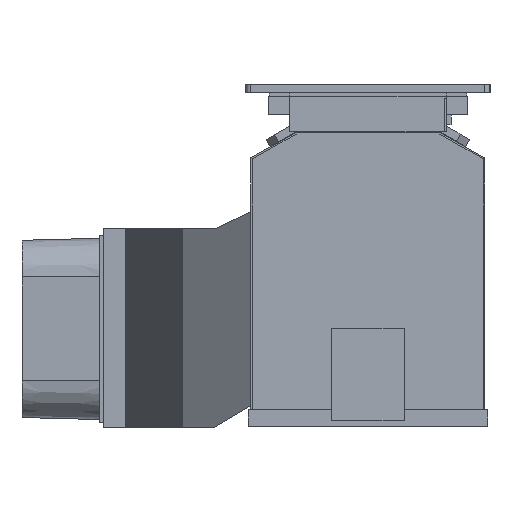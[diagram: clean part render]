
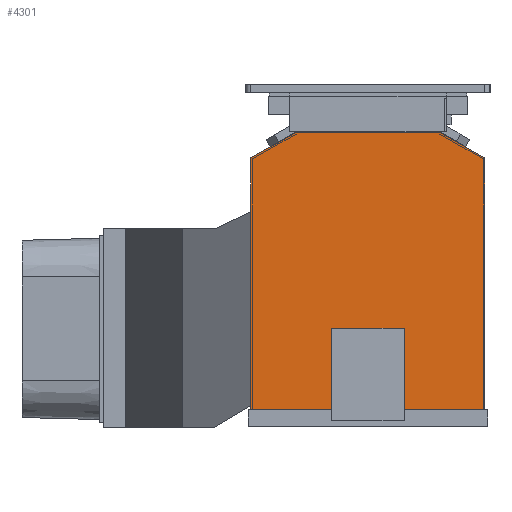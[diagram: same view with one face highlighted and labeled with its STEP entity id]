
A CAD part, left-side view. The second image highlights one B-rep face of the part: STEP entity #4301.
In plain terms, the highlighted planar face has unit normal (-1, 0, 0).
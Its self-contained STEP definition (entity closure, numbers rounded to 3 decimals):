
#4258=AXIS2_PLACEMENT_3D('Plane Axis2P3D',#4255,#4256,#4257) ;
#4136=CARTESIAN_POINT('Line Origine',(-493.,57.5,-94.113)) ;
#4140=CARTESIAN_POINT('Vertex',(-493.,57.5,-156.)) ;
#4142=CARTESIAN_POINT('Vertex',(-493.,57.5,-32.225)) ;
#4255=CARTESIAN_POINT('Axis2P3D Location',(-493.,0.,-19.6)) ;
#4260=CARTESIAN_POINT('Line Origine',(-493.,0.,-156.)) ;
#4264=CARTESIAN_POINT('Vertex',(-493.,-57.5,-156.)) ;
#4267=CARTESIAN_POINT('Line Origine',(-493.,-57.5,-94.113)) ;
#4271=CARTESIAN_POINT('Vertex',(-493.,-57.5,-32.225)) ;
#4274=CARTESIAN_POINT('Line Origine',(-493.,-46.343,-25.913)) ;
#4278=CARTESIAN_POINT('Vertex',(-493.,-35.185,-19.6)) ;
#4281=CARTESIAN_POINT('Line Origine',(-493.,0.,-19.6)) ;
#4285=CARTESIAN_POINT('Vertex',(-493.,35.185,-19.6)) ;
#4288=CARTESIAN_POINT('Line Origine',(-493.,46.343,-25.913)) ;
#4137=DIRECTION('Vector Direction',(0.,0.,-1.)) ;
#4256=DIRECTION('Axis2P3D Direction',(1.,-0.,0.)) ;
#4257=DIRECTION('Axis2P3D XDirection',(0.,1.,0.)) ;
#4261=DIRECTION('Vector Direction',(0.,1.,0.)) ;
#4268=DIRECTION('Vector Direction',(0.,0.,-1.)) ;
#4275=DIRECTION('Vector Direction',(0.,-0.87,-0.492)) ;
#4282=DIRECTION('Vector Direction',(0.,-1.,0.)) ;
#4289=DIRECTION('Vector Direction',(0.,0.87,-0.492)) ;
#4138=VECTOR('Line Direction',#4137,1.) ;
#4262=VECTOR('Line Direction',#4261,1.) ;
#4269=VECTOR('Line Direction',#4268,1.) ;
#4276=VECTOR('Line Direction',#4275,1.) ;
#4283=VECTOR('Line Direction',#4282,1.) ;
#4290=VECTOR('Line Direction',#4289,1.) ;
#4294=ORIENTED_EDGE('',*,*,#4266,.F.) ;
#4295=ORIENTED_EDGE('',*,*,#4273,.F.) ;
#4296=ORIENTED_EDGE('',*,*,#4280,.F.) ;
#4297=ORIENTED_EDGE('',*,*,#4287,.F.) ;
#4298=ORIENTED_EDGE('',*,*,#4292,.F.) ;
#4299=ORIENTED_EDGE('',*,*,#4144,.F.) ;
#4301=ADVANCED_FACE('Ansaugtrichter',(#4300),#4259,.F.) ;
#4144=EDGE_CURVE('',#4141,#4143,#4139,.F.) ;
#4266=EDGE_CURVE('',#4265,#4141,#4263,.T.) ;
#4273=EDGE_CURVE('',#4272,#4265,#4270,.T.) ;
#4280=EDGE_CURVE('',#4279,#4272,#4277,.T.) ;
#4287=EDGE_CURVE('',#4286,#4279,#4284,.T.) ;
#4292=EDGE_CURVE('',#4143,#4286,#4291,.F.) ;
#4293=EDGE_LOOP('',(#4294,#4295,#4296,#4297,#4298,#4299)) ;
#4300=FACE_OUTER_BOUND('',#4293,.T.) ;
#4139=LINE('Line',#4136,#4138) ;
#4263=LINE('Line',#4260,#4262) ;
#4270=LINE('Line',#4267,#4269) ;
#4277=LINE('Line',#4274,#4276) ;
#4284=LINE('Line',#4281,#4283) ;
#4291=LINE('Line',#4288,#4290) ;
#4259=PLANE('',#4258) ;
#4141=VERTEX_POINT('',#4140) ;
#4143=VERTEX_POINT('',#4142) ;
#4265=VERTEX_POINT('',#4264) ;
#4272=VERTEX_POINT('',#4271) ;
#4279=VERTEX_POINT('',#4278) ;
#4286=VERTEX_POINT('',#4285) ;
